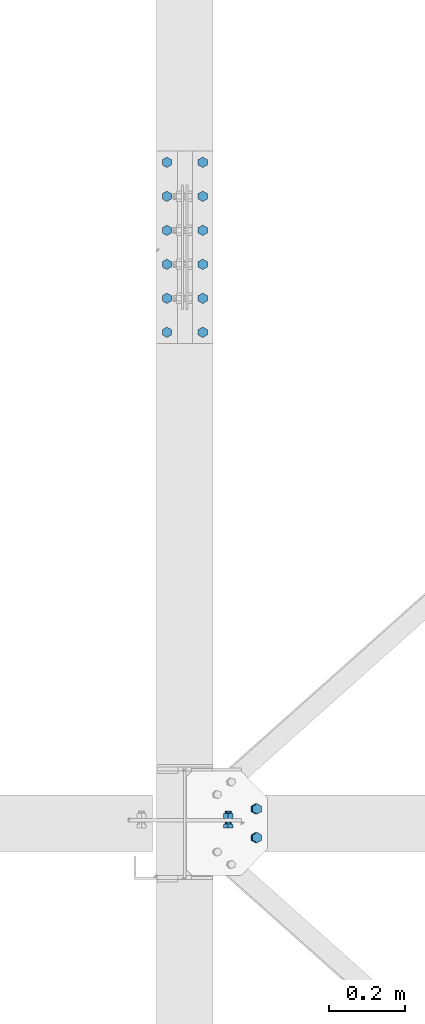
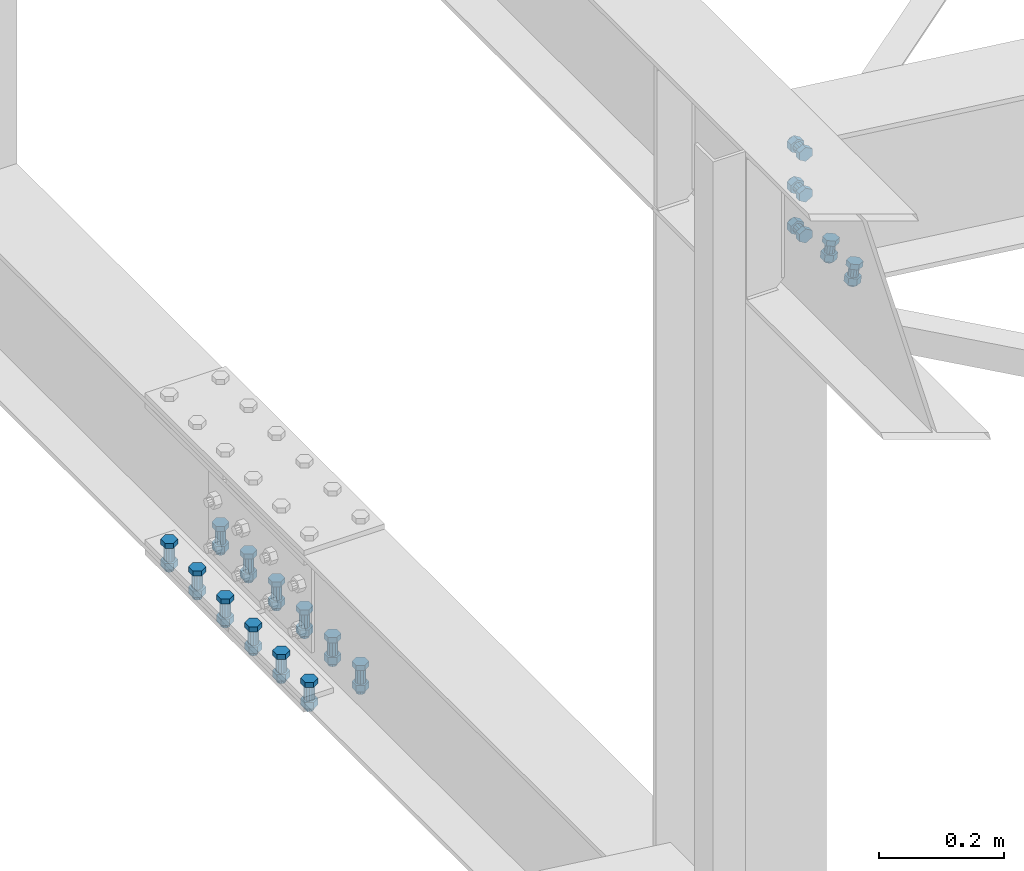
# One storey, part 288 of 3134: 6 mechanical fasteners, 3 elements without a shape of their own.
"""IFC2X3 building model written with IfcOpenShell, lengths in millimetres."""

from ifc_helpers import new_model, si_unit, frame, origin_with_axes, place, context, subcontext, project, spatial, faceted_brep, source, transform, mapped, material, type_object, element, aggregate, save


model = new_model("IFC2X3")

# Units and contexts
model_context = context("Model", 3, precision=1e-05, world=origin_with_axes())
body_context = subcontext(model_context, "Body", "Model", "MODEL_VIEW")
ifc_project = project(units=[si_unit("LENGTHUNIT", "METRE", prefix="MILLI"), si_unit("AREAUNIT", "SQUARE_METRE"), si_unit("VOLUMEUNIT", "CUBIC_METRE"), si_unit("MASSUNIT", "GRAM", prefix="KILO"), si_unit("TIMEUNIT", "SECOND"), si_unit("PLANEANGLEUNIT", "RADIAN"), si_unit("SOLIDANGLEUNIT", "STERADIAN"), si_unit("THERMODYNAMICTEMPERATUREUNIT", "DEGREE_CELSIUS"), si_unit("LUMINOUSINTENSITYUNIT", "LUMEN")], contexts=[model_context])

# Site, building, storey
site_placement = place(None, origin_with_axes())
site = spatial("IfcSite", under=ifc_project, at=site_placement, CompositionType="ELEMENT")
building_placement = place(site_placement, origin_with_axes())
building = spatial("IfcBuilding", under=site, at=building_placement, Name="Undefined", CompositionType="ELEMENT")
storey_placement = place(building_placement, origin_with_axes())
storey = spatial("IfcBuildingStorey", under=building, at=storey_placement, Name="Undefined", CompositionType="ELEMENT", Elevation=0.0)

# Assembly, mechanical fasteners
assembly_1_placement = place(storey_placement, origin_with_axes())
assembly_1 = element("IfcElementAssembly", 1, at=assembly_1_placement, inside=storey, Name="300", AssemblyPlace="NOTDEFINED", PredefinedType="RIGID_FRAME")
ifc_material = material(Name="8.8")
mechanical_fastener_type = type_object("IfcMechanicalFastenerType", Name="Bolt assembly")
shared_shape_1 = source(origin_with_axes(), body_context, "Body", "Brep", [
    faceted_brep([(13.856406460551, -19.199990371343, 0.0), (6.92820323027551, -19.199990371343, 12.0), (-6.92820323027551, -19.199990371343, 12.0), (-13.856406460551, -19.199990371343, 1.69692038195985e-15), (-6.92820323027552, -19.199990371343, -12.0), (6.9282032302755, -19.199990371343, -12.0), (6.9282032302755, -9.19999037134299, -12.0), (-6.92820323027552, -9.19999037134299, -12.0), (-13.856406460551, -9.19999037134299, 1.69692038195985e-15), (-6.92820323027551, -9.19999037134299, 12.0), (6.92820323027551, -9.19999037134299, 12.0), (13.856406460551, -9.19999037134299, 0.0), (8.0, -9.19999037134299, 0.0), (6.92820323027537, -9.19999037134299, 4.00000000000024), (3.99999999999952, -9.19999037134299, 6.92820323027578), (-8.29068785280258e-13, -9.19999037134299, 8.0), (-4.00000000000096, -9.19999037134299, 6.92820323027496), (-6.9282032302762, -9.19999037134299, 3.99999999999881), (-8.0, -9.19999037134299, -1.65813757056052e-12), (-6.92820323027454, -9.19999037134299, -4.00000000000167), (-3.99999999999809, -9.19999037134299, -6.92820323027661), (2.47832457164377e-12, -9.19999037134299, -8.0), (4.00000000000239, -9.19999037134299, -6.92820323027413), (6.92820323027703, -9.19999037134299, -3.99999999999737), (6.92820323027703, 25.800009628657, -3.99999999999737), (4.00000000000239, 25.800009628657, -6.92820323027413), (2.47832457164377e-12, 25.800009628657, -8.0), (-3.99999999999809, 25.800009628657, -6.92820323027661), (-6.92820323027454, 25.800009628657, -4.00000000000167), (-8.0, 25.800009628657, -1.65813757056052e-12), (-6.9282032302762, 25.800009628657, 3.99999999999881), (-4.00000000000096, 25.800009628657, 6.92820323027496), (-8.29068785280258e-13, 25.800009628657, 8.0), (3.99999999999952, 25.800009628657, 6.92820323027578), (6.92820323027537, 25.800009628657, 4.00000000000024), (8.0, 25.800009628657, 0.0), (13.856406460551, 8.00000637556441, 0.0), (6.92820323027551, 8.00000637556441, 12.0), (-6.92820323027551, 8.00000637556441, 12.0), (-13.856406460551, 8.00000637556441, 1.69692038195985e-15), (-6.92820323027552, 8.00000637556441, -12.0), (6.9282032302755, 8.00000637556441, -12.0), (6.9282032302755, 21.0000063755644, -12.0), (-6.92820323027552, 21.0000063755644, -12.0), (-13.856406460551, 21.0000063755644, 1.69692038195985e-15), (-6.92820323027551, 21.0000063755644, 12.0), (6.92820323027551, 21.0000063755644, 12.0), (13.856406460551, 21.0000063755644, 0.0)], [[[0, 1, 2, 3, 4, 5]], [[6, 7, 8, 9, 10, 11]], [[0, 11, 10, 1]], [[1, 10, 9, 2]], [[2, 9, 8, 3]], [[3, 8, 7, 4]], [[4, 7, 6, 5]], [[5, 6, 11, 0]], [[12, 13, 14, 15, 16, 17, 18, 19, 20, 21, 22, 23]], [[24, 25, 26, 27, 28, 29, 30, 31, 32, 33, 34, 35]], [[12, 35, 34, 13]], [[13, 34, 33, 14]], [[14, 33, 32, 15]], [[15, 32, 31, 16]], [[16, 31, 30, 17]], [[17, 30, 29, 18]], [[18, 29, 28, 19]], [[19, 28, 27, 20]], [[20, 27, 26, 21]], [[21, 26, 25, 22]], [[22, 25, 24, 23]], [[23, 24, 35, 12]], [[36, 37, 38, 39, 40, 41]], [[42, 43, 44, 45, 46, 47]], [[36, 47, 46, 37]], [[37, 46, 45, 38]], [[38, 45, 44, 39]], [[39, 44, 43, 40]], [[40, 43, 42, 41]], [[41, 42, 47, 36]]]),
    faceted_brep([(9.0, -0.1, 0.0), (7.79422863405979, -0.1, 4.50000000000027), (4.49999999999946, -0.1, 7.79422863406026), (-9.3270238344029e-13, -0.1, 9.0), (-4.50000000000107, -0.1, 7.79422863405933), (-7.79422863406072, -0.1, 4.49999999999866), (-9.0, -0.1, -1.86540476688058e-12), (-7.79422863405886, -0.1, -4.50000000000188), (-4.49999999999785, -0.1, -7.79422863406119), (2.78811514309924e-12, -0.1, -9.0), (4.50000000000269, -0.1, -7.7942286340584), (7.79422863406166, -0.1, -4.49999999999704), (7.79422863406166, 8.00000000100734, -4.49999999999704), (4.50000000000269, 8.00000000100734, -7.7942286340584), (2.78811514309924e-12, 8.00000000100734, -9.0), (-4.49999999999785, 8.00000000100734, -7.79422863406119), (-7.79422863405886, 8.00000000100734, -4.50000000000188), (-9.0, 8.00000000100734, -1.86540476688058e-12), (-7.79422863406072, 8.00000000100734, 4.49999999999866), (-4.50000000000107, 8.00000000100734, 7.79422863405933), (-9.3270238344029e-13, 8.00000000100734, 9.0), (4.49999999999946, 8.00000000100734, 7.79422863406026), (7.79422863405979, 8.00000000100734, 4.50000000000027), (9.0, 8.00000000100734, 0.0), (9.0, -9.09999037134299, 0.0), (7.79422863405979, -9.09999037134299, 4.50000000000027), (4.49999999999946, -9.09999037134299, 7.79422863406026), (-9.3270238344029e-13, -9.09999037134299, 9.0), (-4.50000000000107, -9.09999037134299, 7.79422863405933), (-7.79422863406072, -9.09999037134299, 4.49999999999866), (-9.0, -9.09999037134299, -1.86540476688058e-12), (-7.79422863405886, -9.09999037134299, -4.50000000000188), (-4.49999999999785, -9.09999037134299, -7.79422863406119), (2.78811514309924e-12, -9.09999037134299, -9.0), (4.50000000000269, -9.09999037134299, -7.7942286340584), (7.79422863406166, -9.09999037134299, -4.49999999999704), (7.79422863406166, 0.100000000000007, -4.49999999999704), (4.50000000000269, 0.100000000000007, -7.7942286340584), (2.78811514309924e-12, 0.100000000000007, -9.0), (-4.49999999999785, 0.100000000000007, -7.79422863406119), (-7.79422863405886, 0.100000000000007, -4.50000000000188), (-9.0, 0.100000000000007, -1.86540476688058e-12), (-7.79422863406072, 0.100000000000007, 4.49999999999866), (-4.50000000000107, 0.100000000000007, 7.79422863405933), (-9.3270238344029e-13, 0.100000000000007, 9.0), (4.49999999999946, 0.100000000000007, 7.79422863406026), (7.79422863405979, 0.100000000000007, 4.50000000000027), (9.0, 0.100000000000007, 0.0)], [[[0, 1, 2, 3, 4, 5, 6, 7, 8, 9, 10, 11]], [[12, 13, 14, 15, 16, 17, 18, 19, 20, 21, 22, 23]], [[0, 23, 22, 1]], [[1, 22, 21, 2]], [[2, 21, 20, 3]], [[3, 20, 19, 4]], [[4, 19, 18, 5]], [[5, 18, 17, 6]], [[6, 17, 16, 7]], [[7, 16, 15, 8]], [[8, 15, 14, 9]], [[9, 14, 13, 10]], [[10, 13, 12, 11]], [[11, 12, 23, 0]], [[24, 25, 26, 27, 28, 29, 30, 31, 32, 33, 34, 35]], [[36, 37, 38, 39, 40, 41, 42, 43, 44, 45, 46, 47]], [[24, 47, 46, 25]], [[25, 46, 45, 26]], [[26, 45, 44, 27]], [[27, 44, 43, 28]], [[28, 43, 42, 29]], [[29, 42, 41, 30]], [[30, 41, 40, 31]], [[31, 40, 39, 32]], [[32, 39, 38, 33]], [[33, 38, 37, 34]], [[34, 37, 36, 35]], [[35, 36, 47, 24]]]),
])
mechanical_fastener_1_placement = place(assembly_1_placement, frame((56064.2248161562, 50687.9995130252, 5496.68063428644), z_axis=(0.992623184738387, 1.63108538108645e-05, -0.12124031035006), x_axis=(1.62000016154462e-05, -0.999999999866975, -1.90000018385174e-06)))
mechanical_fastener_1 = element("IfcMechanicalFastener", 2, at=mechanical_fastener_1_placement, type_object=mechanical_fastener_type, material=ifc_material, Name="Bolt assembly", NominalDiameter=16.0, NominalLength=35.0, context=body_context, shape_type="MappedRepresentation", body=[
    mapped(shared_shape_1, transform((0.0, 0.0, 0.0))),
    mapped(shared_shape_1, transform((76.0, 0.0, 0.0))),
])
shared_shape_2 = source(origin_with_axes(), body_context, "Body", "Brep", [
    faceted_brep([(13.856406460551, -13.0499999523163, 0.0), (6.92820323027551, -13.0499999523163, 12.0), (-6.92820323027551, -13.0499999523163, 12.0), (-13.856406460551, -13.0499999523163, 1.69692038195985e-15), (-6.92820323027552, -13.0499999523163, -12.0), (6.9282032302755, -13.0499999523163, -12.0), (6.9282032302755, -3.04999995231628, -12.0), (-6.92820323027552, -3.04999995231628, -12.0), (-13.856406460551, -3.04999995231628, 1.69692038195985e-15), (-6.92820323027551, -3.04999995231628, 12.0), (6.92820323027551, -3.04999995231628, 12.0), (13.856406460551, -3.04999995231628, 0.0), (8.0, -3.04999995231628, 0.0), (6.92820323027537, -3.04999995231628, 4.00000000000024), (3.99999999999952, -3.04999995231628, 6.92820323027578), (-8.29068785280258e-13, -3.04999995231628, 8.0), (-4.00000000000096, -3.04999995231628, 6.92820323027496), (-6.9282032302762, -3.04999995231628, 3.99999999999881), (-8.0, -3.04999995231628, -1.65813757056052e-12), (-6.92820323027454, -3.04999995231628, -4.00000000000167), (-3.99999999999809, -3.04999995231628, -6.92820323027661), (2.47832457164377e-12, -3.04999995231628, -8.0), (4.00000000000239, -3.04999995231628, -6.92820323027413), (6.92820323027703, -3.04999995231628, -3.99999999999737), (6.92820323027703, 31.9500000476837, -3.99999999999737), (4.00000000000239, 31.9500000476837, -6.92820323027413), (2.47832457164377e-12, 31.9500000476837, -8.0), (-3.99999999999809, 31.9500000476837, -6.92820323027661), (-6.92820323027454, 31.9500000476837, -4.00000000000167), (-8.0, 31.9500000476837, -1.65813757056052e-12), (-6.9282032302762, 31.9500000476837, 3.99999999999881), (-4.00000000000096, 31.9500000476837, 6.92820323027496), (-8.29068785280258e-13, 31.9500000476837, 8.0), (3.99999999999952, 31.9500000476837, 6.92820323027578), (6.92820323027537, 31.9500000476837, 4.00000000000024), (8.0, 31.9500000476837, 0.0), (13.856406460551, 13.0500000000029, 0.0), (6.92820323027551, 13.0500000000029, 12.0), (-6.92820323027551, 13.0500000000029, 12.0), (-13.856406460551, 13.0500000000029, 1.69692038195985e-15), (-6.92820323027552, 13.0500000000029, -12.0), (6.9282032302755, 13.0500000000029, -12.0), (6.9282032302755, 26.0500000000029, -12.0), (-6.92820323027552, 26.0500000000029, -12.0), (-13.856406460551, 26.0500000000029, 1.69692038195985e-15), (-6.92820323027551, 26.0500000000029, 12.0), (6.92820323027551, 26.0500000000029, 12.0), (13.856406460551, 26.0500000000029, 0.0)], [[[0, 1, 2, 3, 4, 5]], [[6, 7, 8, 9, 10, 11]], [[0, 11, 10, 1]], [[1, 10, 9, 2]], [[2, 9, 8, 3]], [[3, 8, 7, 4]], [[4, 7, 6, 5]], [[5, 6, 11, 0]], [[12, 13, 14, 15, 16, 17, 18, 19, 20, 21, 22, 23]], [[24, 25, 26, 27, 28, 29, 30, 31, 32, 33, 34, 35]], [[12, 35, 34, 13]], [[13, 34, 33, 14]], [[14, 33, 32, 15]], [[15, 32, 31, 16]], [[16, 31, 30, 17]], [[17, 30, 29, 18]], [[18, 29, 28, 19]], [[19, 28, 27, 20]], [[20, 27, 26, 21]], [[21, 26, 25, 22]], [[22, 25, 24, 23]], [[23, 24, 35, 12]], [[36, 37, 38, 39, 40, 41]], [[42, 43, 44, 45, 46, 47]], [[36, 47, 46, 37]], [[37, 46, 45, 38]], [[38, 45, 44, 39]], [[39, 44, 43, 40]], [[40, 43, 42, 41]], [[41, 42, 47, 36]]]),
    faceted_brep([(9.0, 2.95000000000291, 0.0), (7.79422863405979, 2.95000000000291, 4.50000000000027), (4.49999999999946, 2.95000000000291, 7.79422863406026), (-9.3270238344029e-13, 2.95000000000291, 9.0), (-4.50000000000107, 2.95000000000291, 7.79422863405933), (-7.79422863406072, 2.95000000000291, 4.49999999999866), (-9.0, 2.95000000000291, -1.86540476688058e-12), (-7.79422863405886, 2.95000000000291, -4.50000000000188), (-4.49999999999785, 2.95000000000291, -7.79422863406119), (2.78811514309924e-12, 2.95000000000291, -9.0), (4.50000000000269, 2.95000000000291, -7.7942286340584), (7.79422863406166, 2.95000000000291, -4.49999999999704), (7.79422863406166, 13.0500000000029, -4.49999999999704), (4.50000000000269, 13.0500000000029, -7.7942286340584), (2.78811514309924e-12, 13.0500000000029, -9.0), (-4.49999999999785, 13.0500000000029, -7.79422863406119), (-7.79422863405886, 13.0500000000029, -4.50000000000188), (-9.0, 13.0500000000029, -1.86540476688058e-12), (-7.79422863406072, 13.0500000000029, 4.49999999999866), (-4.50000000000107, 13.0500000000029, 7.79422863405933), (-9.3270238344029e-13, 13.0500000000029, 9.0), (4.49999999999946, 13.0500000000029, 7.79422863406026), (7.79422863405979, 13.0500000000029, 4.50000000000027), (9.0, 13.0500000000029, 0.0), (9.0, -2.94999995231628, 0.0), (7.79422863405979, -2.94999995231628, 4.50000000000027), (4.49999999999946, -2.94999995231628, 7.79422863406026), (-9.3270238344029e-13, -2.94999995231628, 9.0), (-4.50000000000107, -2.94999995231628, 7.79422863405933), (-7.79422863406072, -2.94999995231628, 4.49999999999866), (-9.0, -2.94999995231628, -1.86540476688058e-12), (-7.79422863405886, -2.94999995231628, -4.50000000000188), (-4.49999999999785, -2.94999995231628, -7.79422863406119), (2.78811514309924e-12, -2.94999995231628, -9.0), (4.50000000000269, -2.94999995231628, -7.7942286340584), (7.79422863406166, -2.94999995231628, -4.49999999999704), (7.79422863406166, 3.14999995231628, -4.49999999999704), (4.50000000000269, 3.14999995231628, -7.7942286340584), (2.78811514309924e-12, 3.14999995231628, -9.0), (-4.49999999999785, 3.14999995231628, -7.79422863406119), (-7.79422863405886, 3.14999995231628, -4.50000000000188), (-9.0, 3.14999995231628, -1.86540476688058e-12), (-7.79422863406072, 3.14999995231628, 4.49999999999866), (-4.50000000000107, 3.14999995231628, 7.79422863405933), (-9.3270238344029e-13, 3.14999995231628, 9.0), (4.49999999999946, 3.14999995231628, 7.79422863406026), (7.79422863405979, 3.14999995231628, 4.50000000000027), (9.0, 3.14999995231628, 0.0)], [[[0, 1, 2, 3, 4, 5, 6, 7, 8, 9, 10, 11]], [[12, 13, 14, 15, 16, 17, 18, 19, 20, 21, 22, 23]], [[0, 23, 22, 1]], [[1, 22, 21, 2]], [[2, 21, 20, 3]], [[3, 20, 19, 4]], [[4, 19, 18, 5]], [[5, 18, 17, 6]], [[6, 17, 16, 7]], [[7, 16, 15, 8]], [[8, 15, 14, 9]], [[9, 14, 13, 10]], [[10, 13, 12, 11]], [[11, 12, 23, 0]], [[24, 25, 26, 27, 28, 29, 30, 31, 32, 33, 34, 35]], [[36, 37, 38, 39, 40, 41, 42, 43, 44, 45, 46, 47]], [[24, 47, 46, 25]], [[25, 46, 45, 26]], [[26, 45, 44, 27]], [[27, 44, 43, 28]], [[28, 43, 42, 29]], [[29, 42, 41, 30]], [[30, 41, 40, 31]], [[31, 40, 39, 32]], [[32, 39, 38, 33]], [[33, 38, 37, 34]], [[34, 37, 36, 35]], [[35, 36, 47, 24]]]),
])
mechanical_fastener_2_placement = place(assembly_1_placement, frame((55990.0, 50650.0, 5735.35014950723), z_axis=(1.0, 0.0, 0.0), x_axis=(0.0, 0.0, -1.0)))
mechanical_fastener_2 = element("IfcMechanicalFastener", 3, at=mechanical_fastener_2_placement, type_object=mechanical_fastener_type, material=ifc_material, Name="Bolt assembly", NominalDiameter=16.0, NominalLength=35.0, context=body_context, shape_type="MappedRepresentation", body=[
    mapped(shared_shape_2, transform((0.0, 0.0, 0.0))),
    mapped(shared_shape_2, transform((80.0, 0.0, 0.0))),
    mapped(shared_shape_2, transform((160.0, 0.0, 0.0))),
])
aggregate(assembly_1, [mechanical_fastener_1, mechanical_fastener_2])

# Assembly, mechanical fastener
assembly_2_placement = place(storey_placement, origin_with_axes())
assembly_2 = element("IfcElementAssembly", 4, at=assembly_2_placement, inside=storey, Name="300", AssemblyPlace="NOTDEFINED", PredefinedType="RIGID_FRAME")
shared_shape_3 = source(origin_with_axes(), body_context, "Body", "Brep", [
    faceted_brep([(13.856406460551, -20.0, 0.0), (6.92820323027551, -20.0, 12.0), (-6.92820323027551, -20.0, 12.0), (-13.856406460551, -20.0, 1.69692038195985e-15), (-6.92820323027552, -20.0, -12.0), (6.9282032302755, -20.0, -12.0), (6.9282032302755, -10.0, -12.0), (-6.92820323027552, -10.0, -12.0), (-13.856406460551, -10.0, 1.69692038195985e-15), (-6.92820323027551, -10.0, 12.0), (6.92820323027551, -10.0, 12.0), (13.856406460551, -10.0, 0.0), (8.0, -10.0, 0.0), (6.92820323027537, -10.0, 4.00000000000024), (3.99999999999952, -10.0, 6.92820323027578), (-8.29068785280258e-13, -10.0, 8.0), (-4.00000000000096, -10.0, 6.92820323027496), (-6.9282032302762, -10.0, 3.99999999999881), (-8.0, -10.0, -1.65813757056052e-12), (-6.92820323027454, -10.0, -4.00000000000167), (-3.99999999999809, -10.0, -6.92820323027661), (2.47832457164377e-12, -10.0, -8.0), (4.00000000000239, -10.0, -6.92820323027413), (6.92820323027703, -10.0, -3.99999999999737), (6.92820323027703, 40.0, -3.99999999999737), (4.00000000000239, 40.0, -6.92820323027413), (2.47832457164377e-12, 40.0, -8.0), (-3.99999999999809, 40.0, -6.92820323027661), (-6.92820323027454, 40.0, -4.00000000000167), (-8.0, 40.0, -1.65813757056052e-12), (-6.9282032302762, 40.0, 3.99999999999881), (-4.00000000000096, 40.0, 6.92820323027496), (-8.29068785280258e-13, 40.0, 8.0), (3.99999999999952, 40.0, 6.92820323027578), (6.92820323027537, 40.0, 4.00000000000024), (8.0, 40.0, 0.0), (13.856406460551, 19.1999998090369, 0.0), (6.92820323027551, 19.1999998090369, 12.0), (-6.92820323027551, 19.1999998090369, 12.0), (-13.856406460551, 19.1999998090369, 1.69692038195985e-15), (-6.92820323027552, 19.1999998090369, -12.0), (6.9282032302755, 19.1999998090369, -12.0), (6.9282032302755, 32.1999998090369, -12.0), (-6.92820323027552, 32.1999998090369, -12.0), (-13.856406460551, 32.1999998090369, 1.69692038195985e-15), (-6.92820323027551, 32.1999998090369, 12.0), (6.92820323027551, 32.1999998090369, 12.0), (13.856406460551, 32.1999998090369, 0.0)], [[[0, 1, 2, 3, 4, 5]], [[6, 7, 8, 9, 10, 11]], [[0, 11, 10, 1]], [[1, 10, 9, 2]], [[2, 9, 8, 3]], [[3, 8, 7, 4]], [[4, 7, 6, 5]], [[5, 6, 11, 0]], [[12, 13, 14, 15, 16, 17, 18, 19, 20, 21, 22, 23]], [[24, 25, 26, 27, 28, 29, 30, 31, 32, 33, 34, 35]], [[12, 35, 34, 13]], [[13, 34, 33, 14]], [[14, 33, 32, 15]], [[15, 32, 31, 16]], [[16, 31, 30, 17]], [[17, 30, 29, 18]], [[18, 29, 28, 19]], [[19, 28, 27, 20]], [[20, 27, 26, 21]], [[21, 26, 25, 22]], [[22, 25, 24, 23]], [[23, 24, 35, 12]], [[36, 37, 38, 39, 40, 41]], [[42, 43, 44, 45, 46, 47]], [[36, 47, 46, 37]], [[37, 46, 45, 38]], [[38, 45, 44, 39]], [[39, 44, 43, 40]], [[40, 43, 42, 41]], [[41, 42, 47, 36]]]),
    faceted_brep([(9.0, 9.09999980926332, 0.0), (7.79422863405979, 9.09999980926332, 4.50000000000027), (4.49999999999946, 9.09999980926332, 7.79422863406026), (-9.3270238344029e-13, 9.09999980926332, 9.0), (-4.50000000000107, 9.09999980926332, 7.79422863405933), (-7.79422863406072, 9.09999980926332, 4.49999999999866), (-9.0, 9.09999980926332, -1.86540476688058e-12), (-7.79422863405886, 9.09999980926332, -4.50000000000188), (-4.49999999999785, 9.09999980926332, -7.79422863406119), (2.78811514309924e-12, 9.09999980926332, -9.0), (4.50000000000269, 9.09999980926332, -7.7942286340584), (7.79422863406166, 9.09999980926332, -4.49999999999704), (7.79422863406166, 19.1999998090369, -4.49999999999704), (4.50000000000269, 19.1999998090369, -7.7942286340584), (2.78811514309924e-12, 19.1999998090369, -9.0), (-4.49999999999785, 19.1999998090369, -7.79422863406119), (-7.79422863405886, 19.1999998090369, -4.50000000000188), (-9.0, 19.1999998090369, -1.86540476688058e-12), (-7.79422863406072, 19.1999998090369, 4.49999999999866), (-4.50000000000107, 19.1999998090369, 7.79422863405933), (-9.3270238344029e-13, 19.1999998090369, 9.0), (4.49999999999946, 19.1999998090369, 7.79422863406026), (7.79422863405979, 19.1999998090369, 4.50000000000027), (9.0, 19.1999998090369, 0.0), (9.0, -3.46568413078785e-07, 0.0), (7.79422863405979, -3.46568413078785e-07, 4.50000000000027), (4.49999999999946, -3.46568413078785e-07, 7.79422863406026), (-9.3270238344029e-13, -3.46568413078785e-07, 9.0), (-4.50000000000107, -3.46568413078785e-07, 7.79422863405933), (-7.79422863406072, -3.46568413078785e-07, 4.49999999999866), (-9.0, -3.46568413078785e-07, -1.86540476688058e-12), (-7.79422863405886, -3.46568413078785e-07, -4.50000000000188), (-4.49999999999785, -3.46568413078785e-07, -7.79422863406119), (2.78811514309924e-12, -3.46568413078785e-07, -9.0), (4.50000000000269, -3.46568413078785e-07, -7.7942286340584), (7.79422863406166, -3.46568413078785e-07, -4.49999999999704), (7.79422863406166, 9.19999980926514, -4.49999999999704), (4.50000000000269, 9.19999980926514, -7.7942286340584), (2.78811514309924e-12, 9.19999980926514, -9.0), (-4.49999999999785, 9.19999980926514, -7.79422863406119), (-7.79422863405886, 9.19999980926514, -4.50000000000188), (-9.0, 9.19999980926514, -1.86540476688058e-12), (-7.79422863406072, 9.19999980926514, 4.49999999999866), (-4.50000000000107, 9.19999980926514, 7.79422863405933), (-9.3270238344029e-13, 9.19999980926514, 9.0), (4.49999999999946, 9.19999980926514, 7.79422863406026), (7.79422863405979, 9.19999980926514, 4.50000000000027), (9.0, 9.19999980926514, 0.0), (9.0, -9.89999997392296, 0.0), (7.79422863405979, -9.89999997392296, 4.50000000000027), (4.49999999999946, -9.89999997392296, 7.79422863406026), (-9.3270238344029e-13, -9.89999997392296, 9.0), (-4.50000000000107, -9.89999997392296, 7.79422863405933), (-7.79422863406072, -9.89999997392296, 4.49999999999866), (-9.0, -9.89999997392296, -1.86540476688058e-12), (-7.79422863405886, -9.89999997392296, -4.50000000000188), (-4.49999999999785, -9.89999997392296, -7.79422863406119), (2.78811514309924e-12, -9.89999997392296, -9.0), (4.50000000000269, -9.89999997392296, -7.7942286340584), (7.79422863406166, -9.89999997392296, -4.49999999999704), (7.79422863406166, 0.100000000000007, -4.49999999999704), (4.50000000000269, 0.100000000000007, -7.7942286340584), (2.78811514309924e-12, 0.100000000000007, -9.0), (-4.49999999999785, 0.100000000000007, -7.79422863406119), (-7.79422863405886, 0.100000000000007, -4.50000000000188), (-9.0, 0.100000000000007, -1.86540476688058e-12), (-7.79422863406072, 0.100000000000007, 4.49999999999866), (-4.50000000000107, 0.100000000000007, 7.79422863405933), (-9.3270238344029e-13, 0.100000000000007, 9.0), (4.49999999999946, 0.100000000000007, 7.79422863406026), (7.79422863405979, 0.100000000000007, 4.50000000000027), (9.0, 0.100000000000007, 0.0)], [[[0, 1, 2, 3, 4, 5, 6, 7, 8, 9, 10, 11]], [[12, 13, 14, 15, 16, 17, 18, 19, 20, 21, 22, 23]], [[0, 23, 22, 1]], [[1, 22, 21, 2]], [[2, 21, 20, 3]], [[3, 20, 19, 4]], [[4, 19, 18, 5]], [[5, 18, 17, 6]], [[6, 17, 16, 7]], [[7, 16, 15, 8]], [[8, 15, 14, 9]], [[9, 14, 13, 10]], [[10, 13, 12, 11]], [[11, 12, 23, 0]], [[24, 25, 26, 27, 28, 29, 30, 31, 32, 33, 34, 35]], [[36, 37, 38, 39, 40, 41, 42, 43, 44, 45, 46, 47]], [[24, 47, 46, 25]], [[25, 46, 45, 26]], [[26, 45, 44, 27]], [[27, 44, 43, 28]], [[28, 43, 42, 29]], [[29, 42, 41, 30]], [[30, 41, 40, 31]], [[31, 40, 39, 32]], [[32, 39, 38, 33]], [[33, 38, 37, 34]], [[34, 37, 36, 35]], [[35, 36, 47, 24]], [[48, 49, 50, 51, 52, 53, 54, 55, 56, 57, 58, 59]], [[60, 61, 62, 63, 64, 65, 66, 67, 68, 69, 70, 71]], [[48, 71, 70, 49]], [[49, 70, 69, 50]], [[50, 69, 68, 51]], [[51, 68, 67, 52]], [[52, 67, 66, 53]], [[53, 66, 65, 54]], [[54, 65, 64, 55]], [[55, 64, 63, 56]], [[56, 63, 62, 57]], [[57, 62, 61, 58]], [[58, 61, 60, 59]], [[59, 60, 71, 48]]]),
])
mechanical_fastener_3_placement = place(assembly_2_placement, frame((55827.4999999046, 52220.1, 3949.19999980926), z_axis=(-1.0, 0.0, 0.0), x_axis=(0.0, 1.0, 0.0)))
mechanical_fastener_3 = element("IfcMechanicalFastener", 5, at=mechanical_fastener_3_placement, type_object=mechanical_fastener_type, material=ifc_material, Name="Bolt assembly", NominalDiameter=16.0, NominalLength=50.0, context=body_context, shape_type="MappedRepresentation", body=[
    mapped(shared_shape_3, transform((0.0, 0.0, 0.0))),
    mapped(shared_shape_3, transform((90.0, 0.0, 0.0))),
    mapped(shared_shape_3, transform((180.0, 0.0, 0.0))),
])

assembly_3_placement = place(storey_placement, origin_with_axes())
assembly_3 = element("IfcElementAssembly", 6, at=assembly_3_placement, inside=storey, Name="300", AssemblyPlace="NOTDEFINED", PredefinedType="RIGID_FRAME")
mechanical_fastener_4_placement = place(assembly_3_placement, frame((55827.4999999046, 51950.1, 3949.19999980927), z_axis=(-1.0, 0.0, 0.0), x_axis=(0.0, 1.0, 0.0)))
mechanical_fastener_4 = element("IfcMechanicalFastener", 7, at=mechanical_fastener_4_placement, type_object=mechanical_fastener_type, material=ifc_material, Name="Bolt assembly", NominalDiameter=16.0, NominalLength=50.0, context=body_context, shape_type="MappedRepresentation", body=[
    mapped(shared_shape_3, transform((0.0, 0.0, 0.0))),
    mapped(shared_shape_3, transform((90.0, 0.0, 0.0))),
    mapped(shared_shape_3, transform((180.0, 0.0, 0.0))),
])

# Mechanical fastener
mechanical_fastener_5_placement = place(assembly_2_placement, frame((55922.4999999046, 52220.1, 3949.19999980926), z_axis=(-1.0, 0.0, 0.0), x_axis=(0.0, 1.0, 0.0)))
mechanical_fastener_5 = element("IfcMechanicalFastener", 8, at=mechanical_fastener_5_placement, type_object=mechanical_fastener_type, material=ifc_material, Name="Bolt assembly", NominalDiameter=16.0, NominalLength=50.0, context=body_context, shape_type="MappedRepresentation", body=[
    mapped(shared_shape_3, transform((0.0, 0.0, 0.0))),
    mapped(shared_shape_3, transform((90.0, 0.0, 0.0))),
    mapped(shared_shape_3, transform((180.0, 0.0, 0.0))),
])

aggregate(assembly_2, [mechanical_fastener_3, mechanical_fastener_5])

mechanical_fastener_6_placement = place(assembly_3_placement, frame((55922.4999999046, 51950.1, 3949.19999980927), z_axis=(-1.0, 0.0, 0.0), x_axis=(0.0, 1.0, 0.0)))
mechanical_fastener_6 = element("IfcMechanicalFastener", 9, at=mechanical_fastener_6_placement, type_object=mechanical_fastener_type, material=ifc_material, Name="Bolt assembly", NominalDiameter=16.0, NominalLength=50.0, context=body_context, shape_type="MappedRepresentation", body=[
    mapped(shared_shape_3, transform((0.0, 0.0, 0.0))),
    mapped(shared_shape_3, transform((90.0, 0.0, 0.0))),
    mapped(shared_shape_3, transform((180.0, 0.0, 0.0))),
])

aggregate(assembly_3, [mechanical_fastener_4, mechanical_fastener_6])

save(model, "model.ifc")
